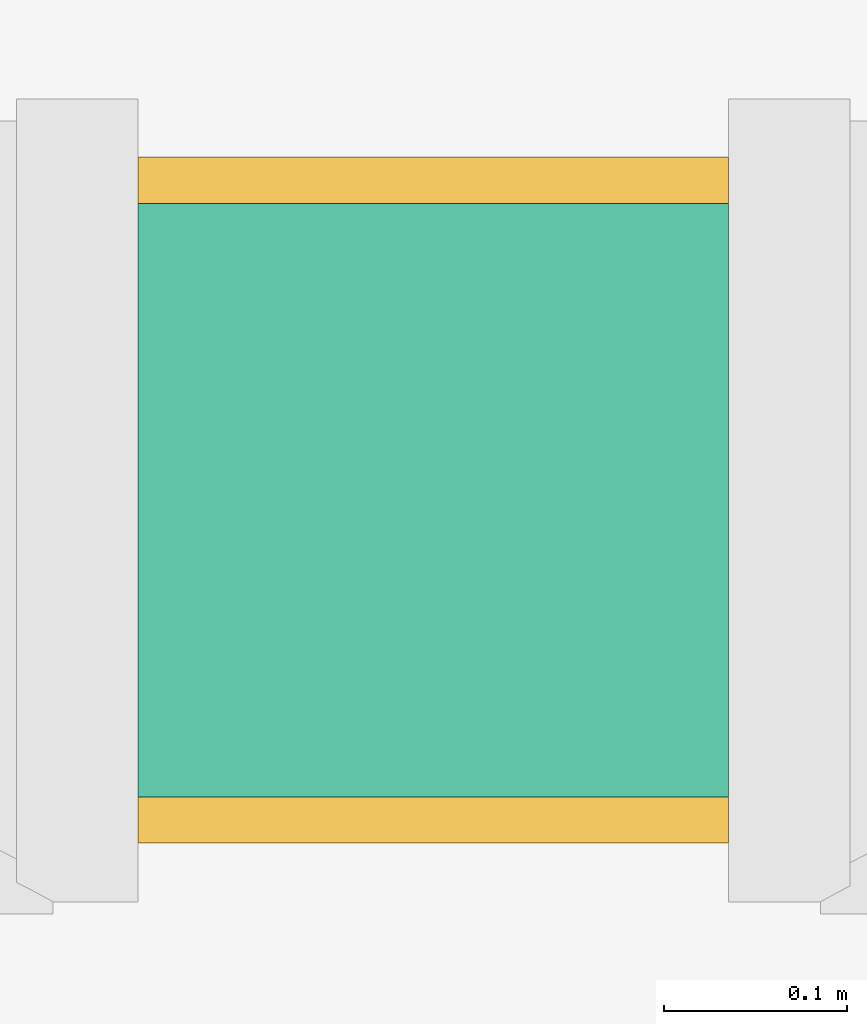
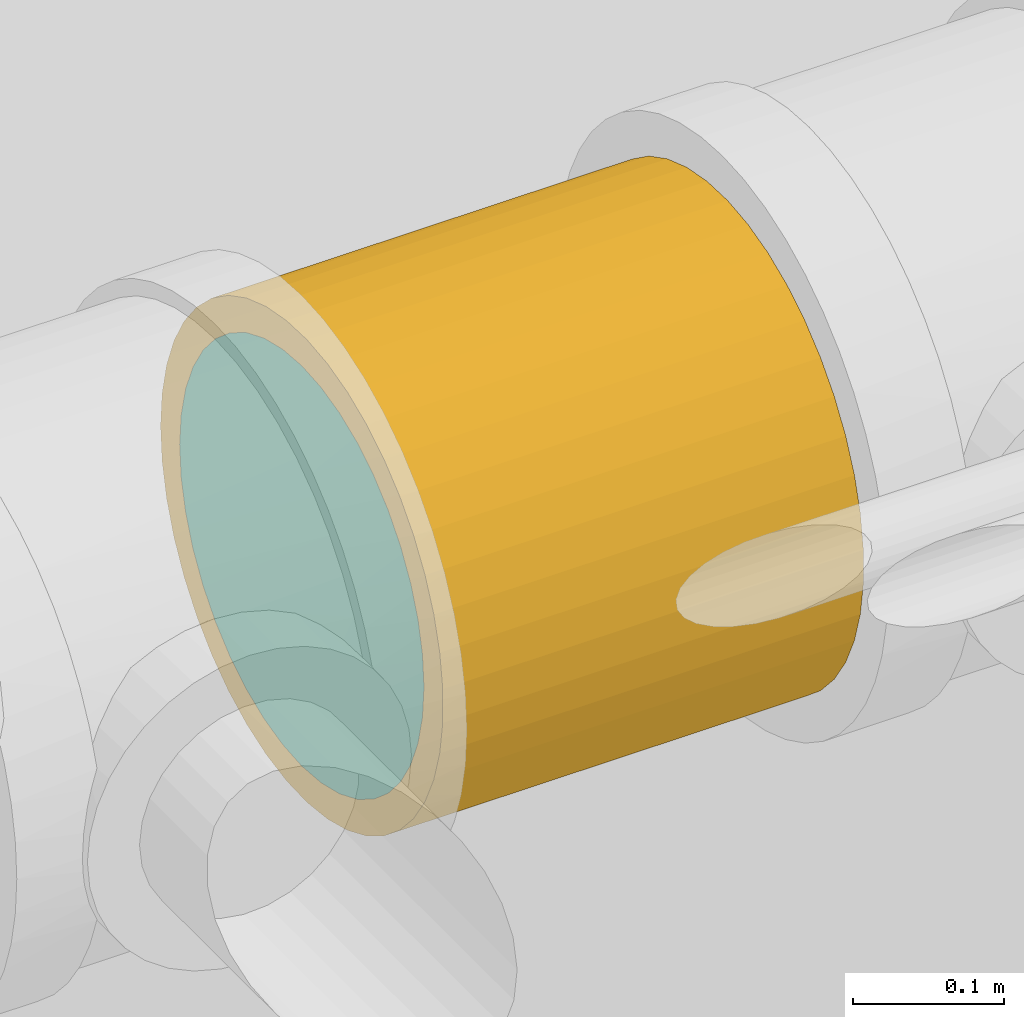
# One storey, part 77 of 108: 1 covering, 1 pipe segment.
"""IFC4 building model written with IfcOpenShell, lengths in feet."""

from ifc_helpers import new_model, entity, si_unit, converted_unit, derived_unit, direction, frame, frame_2d, origin, origin_2d_with_axis, place, context, subcontext, project, spatial, circle, extrude, type_object, element, aggregate, save


model = new_model("IFC4")

# Units and contexts
model_context = context("Model", 3, precision=0.0001, world=origin(), true_north=direction((6.12303176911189e-17, 1.0)))
body_context = subcontext(model_context, "Body", "Model", "MODEL_VIEW")
ifc_project = project(units=[converted_unit("LENGTHUNIT", "FOOT", entity("IfcRatioMeasure", 0.3048), si_unit("LENGTHUNIT", "METRE"), dimensions=[1, 0, 0, 0, 0, 0, 0]), converted_unit("AREAUNIT", "SQUARE FOOT", entity("IfcRatioMeasure", 0.09290304), si_unit("AREAUNIT", "SQUARE_METRE"), dimensions=[2, 0, 0, 0, 0, 0, 0]), converted_unit("VOLUMEUNIT", "CUBIC FOOT", entity("IfcRatioMeasure", 0.028316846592), si_unit("VOLUMEUNIT", "CUBIC_METRE"), dimensions=[3, 0, 0, 0, 0, 0, 0]), converted_unit("PLANEANGLEUNIT", "DEGREE", entity("IfcRatioMeasure", 0.0174532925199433), si_unit("PLANEANGLEUNIT", "RADIAN"), dimensions=[0, 0, 0, 0, 0, 0, 0]), si_unit("MASSUNIT", "GRAM", prefix="KILO"), derived_unit("MASSDENSITYUNIT", [(si_unit("MASSUNIT", "GRAM", prefix="KILO"), 1), (si_unit("LENGTHUNIT", "METRE"), -3)]), si_unit("TIMEUNIT", "SECOND"), si_unit("FREQUENCYUNIT", "HERTZ"), si_unit("THERMODYNAMICTEMPERATUREUNIT", "DEGREE_CELSIUS"), derived_unit("THERMALTRANSMITTANCEUNIT", [(si_unit("MASSUNIT", "GRAM", prefix="KILO"), 1), (si_unit("THERMODYNAMICTEMPERATUREUNIT", "KELVIN"), -1), (si_unit("TIMEUNIT", "SECOND"), -3)]), derived_unit("VOLUMETRICFLOWRATEUNIT", [(si_unit("LENGTHUNIT", "METRE"), 3), (si_unit("TIMEUNIT", "SECOND"), -1)]), si_unit("ELECTRICCURRENTUNIT", "AMPERE"), si_unit("ELECTRICVOLTAGEUNIT", "VOLT"), si_unit("POWERUNIT", "WATT"), si_unit("FORCEUNIT", "NEWTON"), si_unit("ILLUMINANCEUNIT", "LUX"), si_unit("LUMINOUSFLUXUNIT", "LUMEN"), si_unit("LUMINOUSINTENSITYUNIT", "CANDELA"), derived_unit("USERDEFINED", [(si_unit("MASSUNIT", "GRAM", prefix="KILO"), -1), (si_unit("LENGTHUNIT", "METRE"), -2), (si_unit("TIMEUNIT", "SECOND"), 3), (si_unit("LUMINOUSFLUXUNIT", "LUMEN"), 1)]), derived_unit("LINEARVELOCITYUNIT", [(si_unit("LENGTHUNIT", "METRE"), 1), (si_unit("TIMEUNIT", "SECOND"), -1)]), si_unit("PRESSUREUNIT", "PASCAL"), derived_unit("USERDEFINED", [(si_unit("LENGTHUNIT", "METRE"), -2), (si_unit("MASSUNIT", "GRAM", prefix="KILO"), 1), (si_unit("TIMEUNIT", "SECOND"), -2)])], contexts=[model_context])

# Covering
site_placement = place(None, origin())
building_placement = place(site_placement, origin())
storey_placement = place(building_placement, frame((0.0, 0.0, 168.0)))
covering_placement = place(storey_placement, frame((0.122759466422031, -17.3700330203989, 8.71351616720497)))
covering = element("IfcCovering", 1, at=covering_placement, Name="Pipe Insulation:Default", ObjectType="Pipe Insulation:Default", PredefinedType="INSULATION", context=body_context, shape_type="SweptSolid", body=[
    extrude(circle(Radius=0.614583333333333, at=frame_2d((0.0, -2.8421709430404e-14), x_axis=(1.0, 0.0))), frame((0.0, 0.61981716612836, 0.619817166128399), z_axis=(1.0, 0.0, 0.0), x_axis=(0.0, 1.0, 0.0)), (0.0, 0.0, 1.0), 1.05661458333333),
])

# Site, building, storey
site = spatial("IfcSite", under=ifc_project, at=site_placement, Name="Default", CompositionType="ELEMENT")
building = spatial("IfcBuilding", under=site, at=building_placement, CompositionType="ELEMENT")
storey = spatial("IfcBuildingStorey", under=building, at=storey_placement, Name="Level 15", CompositionType="ELEMENT", Elevation=168.0)

# Pipe segment
pipe_segment_type = type_object("IfcPipeSegmentType", Name="Pipe Types:Hydronic", PredefinedType="NOTDEFINED")
pipe_segment_placement = place(storey_placement, frame((0.122759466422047, -17.2866996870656, 8.79684950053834)))
pipe_segment = element("IfcPipeSegment", 2, at=pipe_segment_placement, inside=storey, type_object=pipe_segment_type, Name="Pipe Types:Hydronic", ObjectType="Pipe Types:Hydronic", PredefinedType="NOTDEFINED", context=body_context, shape_type="SweptSolid", body=[
    extrude(circle(Radius=0.53125, at=origin_2d_with_axis()), frame((0.0, 0.536483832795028, 0.536483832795), z_axis=(1.0, 0.0, 0.0), x_axis=(0.0, -1.0, 0.0)), (0.0, 0.0, 1.0), 1.05661458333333),
])

aggregate(pipe_segment, [covering])

save(model, "model.ifc")
